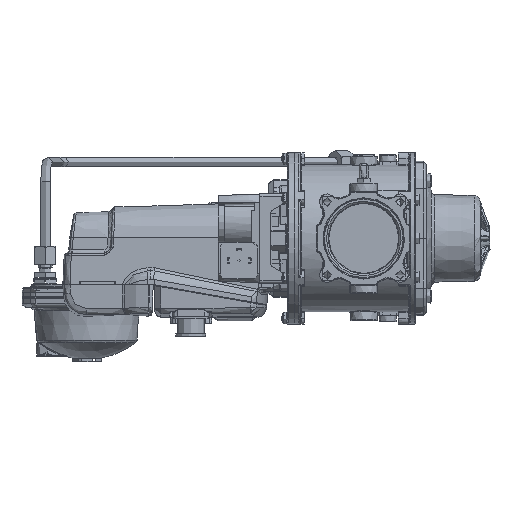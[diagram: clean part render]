
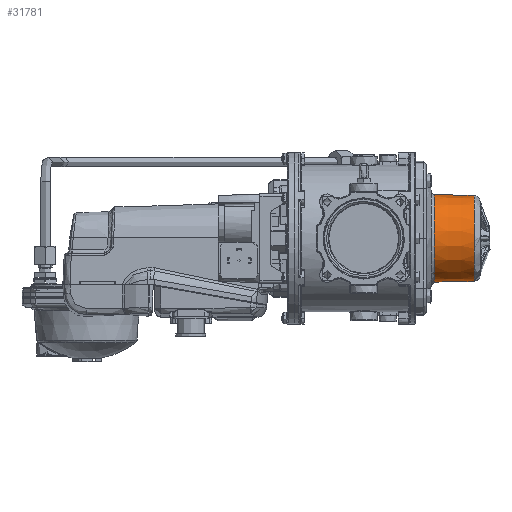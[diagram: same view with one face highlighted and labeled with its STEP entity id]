
A CAD part, left-side view. The second image highlights one B-rep face of the part: STEP entity #31781.
In plain terms, the highlighted conical face has half-angle 1 degrees and reference radius 35.655 mm.
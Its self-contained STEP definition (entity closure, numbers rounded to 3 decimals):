
#11055 = VERTEX_POINT ( 'NONE', #156299 ) ;
#11347 = CARTESIAN_POINT ( 'NONE',  ( 0., -15.456, 0. ) ) ;
#24445 = FACE_OUTER_BOUND ( 'NONE', #66011, .T. ) ;
#31781 = ADVANCED_FACE ( 'NONE', ( #24445, #306888 ), #101580, .T. ) ;
#33040 = CARTESIAN_POINT ( 'NONE',  ( 0., -15.456, 0. ) ) ;
#38843 = DIRECTION ( 'NONE',  ( 0., 0., -1. ) ) ;
#50171 = ORIENTED_EDGE ( 'NONE', *, *, #276084, .T. ) ;
#58186 = CIRCLE ( 'NONE', #59701, 35.655 ) ;
#59701 = AXIS2_PLACEMENT_3D ( 'NONE', #11347, #310315, #38843 ) ;
#66011 = EDGE_LOOP ( 'NONE', ( #50171 ) ) ;
#83264 = DIRECTION ( 'NONE',  ( 1., 0., 0. ) ) ;
#90171 = AXIS2_PLACEMENT_3D ( 'NONE', #33040, #219690, #83264 ) ;
#101580 = CONICAL_SURFACE ( 'NONE', #90171, 35.655, 0.017 ) ;
#110086 = DIRECTION ( 'NONE',  ( 0., 1., 0. ) ) ;
#113092 = CARTESIAN_POINT ( 'NONE',  ( 0., -15.456, -35.655 ) ) ;
#116719 = CIRCLE ( 'NONE', #257432, 35.086 ) ;
#130383 = VERTEX_POINT ( 'NONE', #113092 ) ;
#156299 = CARTESIAN_POINT ( 'NONE',  ( 0., -48.087, -35.086 ) ) ;
#192529 = EDGE_CURVE ( 'NONE', #11055, #11055, #116719, .T. ) ;
#219690 = DIRECTION ( 'NONE',  ( 0., 1., 0. ) ) ;
#246541 = CARTESIAN_POINT ( 'NONE',  ( 0., -48.087, 0. ) ) ;
#257432 = AXIS2_PLACEMENT_3D ( 'NONE', #246541, #110086, #328833 ) ;
#276084 = EDGE_CURVE ( 'NONE', #130383, #130383, #58186, .T. ) ;
#306888 = FACE_BOUND ( 'NONE', #337789, .T. ) ;
#310315 = DIRECTION ( 'NONE',  ( 0., -1., 0. ) ) ;
#319494 = ORIENTED_EDGE ( 'NONE', *, *, #192529, .T. ) ;
#328833 = DIRECTION ( 'NONE',  ( 0., 0., -1. ) ) ;
#337789 = EDGE_LOOP ( 'NONE', ( #319494 ) ) ;
